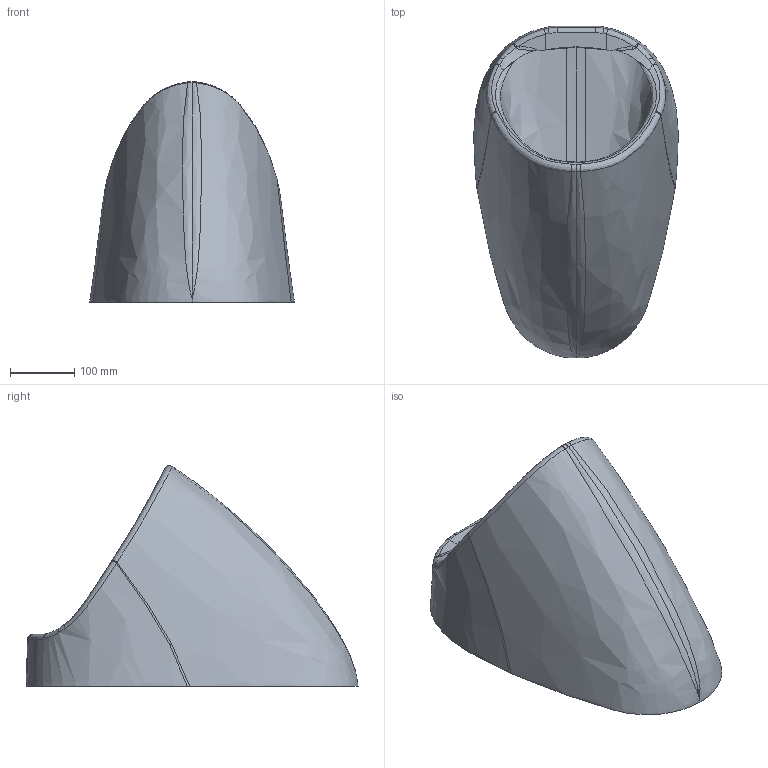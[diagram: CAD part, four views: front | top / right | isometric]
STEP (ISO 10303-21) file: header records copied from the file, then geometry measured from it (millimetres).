
FILE_DESCRIPTION (( 'STEP AP203' ), '1' );
FILE_NAME ('TP690-00CB00E-0000.STEP', '2022-11-01T11:29:39', ( '' ), ( '' ), 'SwSTEP 2.0', 'SolidWorks 2021', '' );
FILE_SCHEMA (( 'CONFIG_CONTROL_DESIGN' ));
Length unit declared in the file: inch
Products named in the file (1): TP690-00CB00E-0000
Bounding box: 317.69 x 514.94 x 342.13 mm (x, y, z)
Volume: 9307584.1 mm3; surface area: 713645.9 mm2
Topology: 2 solids, 2 shells, 303 faces, 770 edges, 458 vertices
Faces by surface type: bspline 243, plane 21, cylinder 18, cone 10, torus 7, sphere 4
Entity records: 79748 total; most frequent: CARTESIAN_POINT 74477, ORIENTED_EDGE 1506, EDGE_CURVE 753, B_SPLINE_CURVE_WITH_KNOTS 508, DIRECTION 469, VERTEX_POINT 458, EDGE_LOOP 307, FACE_OUTER_BOUND 303
